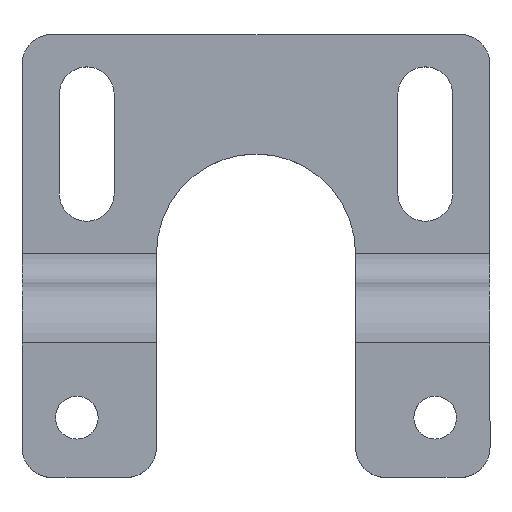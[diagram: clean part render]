
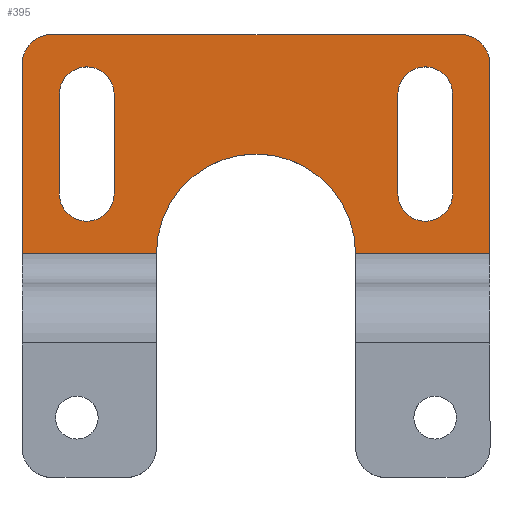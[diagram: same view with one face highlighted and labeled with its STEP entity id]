
A CAD part, top view. The second image highlights one B-rep face of the part: STEP entity #395.
In plain terms, the highlighted planar face has unit normal (0, 0, 1).
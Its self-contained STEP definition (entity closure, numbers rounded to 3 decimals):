
#209=CARTESIAN_POINT('',(-23.5,22.0,-9.5));
#210=VERTEX_POINT('',#209);
#217=CARTESIAN_POINT('',(-20.5,25.,-9.5));
#218=VERTEX_POINT('',#217);
#219=CARTESIAN_POINT('',(-20.5,22.0,-9.5));
#220=DIRECTION('',(0.0,0.0,-1.));
#221=DIRECTION('',(-0.707,0.707,0.0));
#222=AXIS2_PLACEMENT_3D('',#219,#220,#221);
#223=CIRCLE('',#222,3.);
#224=EDGE_CURVE('',#210,#218,#223,.T.);
#241=CARTESIAN_POINT('',(20.5,25.,-9.5));
#242=VERTEX_POINT('',#241);
#243=CARTESIAN_POINT('',(-20.5,25.,-9.5));
#244=DIRECTION('',(1.0,0.0,0.0));
#245=VECTOR('',#244,41.);
#246=LINE('',#243,#245);
#247=EDGE_CURVE('',#218,#242,#246,.T.);
#266=CARTESIAN_POINT('',(-23.5,-3.,-9.5));
#267=DIRECTION('',(0.0,0.0,1.0));
#268=DIRECTION('',(1.0,0.0,0.0));
#269=AXIS2_PLACEMENT_3D('',#266,#267,#268);
#270=PLANE('',#269);
#271=ORIENTED_EDGE('',*,*,#224,.F.);
#272=CARTESIAN_POINT('',(-23.5,3.,-9.5));
#273=VERTEX_POINT('',#272);
#274=CARTESIAN_POINT('',(-23.5,3.,-9.5));
#275=DIRECTION('',(0.0,1.0,0.0));
#276=VECTOR('',#275,19.0);
#277=LINE('',#274,#276);
#278=EDGE_CURVE('',#273,#210,#277,.T.);
#279=ORIENTED_EDGE('',*,*,#278,.F.);
#280=CARTESIAN_POINT('',(-10.,3.,-9.5));
#281=VERTEX_POINT('',#280);
#282=CARTESIAN_POINT('',(-10.,3.,-9.5));
#283=DIRECTION('',(-1.0,0.0,0.0));
#284=VECTOR('',#283,13.5);
#285=LINE('',#282,#284);
#286=EDGE_CURVE('',#281,#273,#285,.T.);
#287=ORIENTED_EDGE('',*,*,#286,.F.);
#288=CARTESIAN_POINT('',(10.0,3.,-9.5));
#289=VERTEX_POINT('',#288);
#290=CARTESIAN_POINT('',(0.,3.,-9.5));
#291=DIRECTION('',(0.0,0.0,-1.0));
#292=DIRECTION('',(1.0,0.0,0.0));
#293=AXIS2_PLACEMENT_3D('',#290,#291,#292);
#294=CIRCLE('',#293,10.);
#295=EDGE_CURVE('',#281,#289,#294,.T.);
#296=ORIENTED_EDGE('',*,*,#295,.T.);
#297=CARTESIAN_POINT('',(23.5,3.,-9.5));
#298=VERTEX_POINT('',#297);
#299=CARTESIAN_POINT('',(23.5,3.,-9.5));
#300=DIRECTION('',(-1.0,0.0,0.0));
#301=VECTOR('',#300,13.5);
#302=LINE('',#299,#301);
#303=EDGE_CURVE('',#298,#289,#302,.T.);
#304=ORIENTED_EDGE('',*,*,#303,.F.);
#305=CARTESIAN_POINT('',(23.5,22.0,-9.5));
#306=VERTEX_POINT('',#305);
#307=CARTESIAN_POINT('',(23.5,3.,-9.5));
#308=DIRECTION('',(0.0,1.0,0.0));
#309=VECTOR('',#308,19.0);
#310=LINE('',#307,#309);
#311=EDGE_CURVE('',#298,#306,#310,.T.);
#312=ORIENTED_EDGE('',*,*,#311,.T.);
#313=CARTESIAN_POINT('',(20.5,22.0,-9.5));
#314=DIRECTION('',(0.0,0.0,-1.));
#315=DIRECTION('',(0.707,0.707,0.0));
#316=AXIS2_PLACEMENT_3D('',#313,#314,#315);
#317=CIRCLE('',#316,3.);
#318=EDGE_CURVE('',#242,#306,#317,.T.);
#319=ORIENTED_EDGE('',*,*,#318,.F.);
#320=ORIENTED_EDGE('',*,*,#247,.F.);
#321=EDGE_LOOP('',(#271,#279,#287,#296,#304,#312,#319,#320));
#322=FACE_OUTER_BOUND('',#321,.T.);
#323=CARTESIAN_POINT('',(-19.75,19.,-9.5));
#324=VERTEX_POINT('',#323);
#325=CARTESIAN_POINT('',(-14.25,19.,-9.5));
#326=VERTEX_POINT('',#325);
#327=CARTESIAN_POINT('',(-17.,19.,-9.5));
#328=DIRECTION('',(0.0,0.0,-1.0));
#329=DIRECTION('',(1.0,0.0,0.0));
#330=AXIS2_PLACEMENT_3D('',#327,#328,#329);
#331=CIRCLE('',#330,2.75);
#332=EDGE_CURVE('',#324,#326,#331,.T.);
#333=ORIENTED_EDGE('',*,*,#332,.T.);
#334=CARTESIAN_POINT('',(-14.25,9.,-9.5));
#335=VERTEX_POINT('',#334);
#336=CARTESIAN_POINT('',(-14.25,19.,-9.5));
#337=DIRECTION('',(0.0,-1.0,0.0));
#338=VECTOR('',#337,10.);
#339=LINE('',#336,#338);
#340=EDGE_CURVE('',#326,#335,#339,.T.);
#341=ORIENTED_EDGE('',*,*,#340,.T.);
#342=CARTESIAN_POINT('',(-19.75,9.,-9.5));
#343=VERTEX_POINT('',#342);
#344=CARTESIAN_POINT('',(-17.,9.,-9.5));
#345=DIRECTION('',(0.0,0.0,-1.0));
#346=DIRECTION('',(-1.0,0.0,0.0));
#347=AXIS2_PLACEMENT_3D('',#344,#345,#346);
#348=CIRCLE('',#347,2.75);
#349=EDGE_CURVE('',#335,#343,#348,.T.);
#350=ORIENTED_EDGE('',*,*,#349,.T.);
#351=CARTESIAN_POINT('',(-19.75,9.,-9.5));
#352=DIRECTION('',(0.0,1.0,0.0));
#353=VECTOR('',#352,10.);
#354=LINE('',#351,#353);
#355=EDGE_CURVE('',#343,#324,#354,.T.);
#356=ORIENTED_EDGE('',*,*,#355,.T.);
#357=EDGE_LOOP('',(#333,#341,#350,#356));
#358=FACE_BOUND('',#357,.T.);
#359=CARTESIAN_POINT('',(14.25,9.,-9.5));
#360=VERTEX_POINT('',#359);
#361=CARTESIAN_POINT('',(14.25,19.0,-9.5));
#362=VERTEX_POINT('',#361);
#363=CARTESIAN_POINT('',(14.25,9.,-9.5));
#364=DIRECTION('',(0.0,1.0,0.0));
#365=VECTOR('',#364,10.);
#366=LINE('',#363,#365);
#367=EDGE_CURVE('',#360,#362,#366,.T.);
#368=ORIENTED_EDGE('',*,*,#367,.T.);
#369=CARTESIAN_POINT('',(19.75,19.0,-9.5));
#370=VERTEX_POINT('',#369);
#371=CARTESIAN_POINT('',(17.,19.,-9.5));
#372=DIRECTION('',(0.0,0.0,-1.0));
#373=DIRECTION('',(-1.0,0.0,0.0));
#374=AXIS2_PLACEMENT_3D('',#371,#372,#373);
#375=CIRCLE('',#374,2.75);
#376=EDGE_CURVE('',#362,#370,#375,.T.);
#377=ORIENTED_EDGE('',*,*,#376,.T.);
#378=CARTESIAN_POINT('',(19.75,9.,-9.5));
#379=VERTEX_POINT('',#378);
#380=CARTESIAN_POINT('',(19.75,19.0,-9.5));
#381=DIRECTION('',(0.0,-1.0,0.0));
#382=VECTOR('',#381,10.);
#383=LINE('',#380,#382);
#384=EDGE_CURVE('',#370,#379,#383,.T.);
#385=ORIENTED_EDGE('',*,*,#384,.T.);
#386=CARTESIAN_POINT('',(17.,9.,-9.5));
#387=DIRECTION('',(0.0,0.0,-1.0));
#388=DIRECTION('',(1.0,0.0,0.0));
#389=AXIS2_PLACEMENT_3D('',#386,#387,#388);
#390=CIRCLE('',#389,2.75);
#391=EDGE_CURVE('',#379,#360,#390,.T.);
#392=ORIENTED_EDGE('',*,*,#391,.T.);
#393=EDGE_LOOP('',(#368,#377,#385,#392));
#394=FACE_BOUND('',#393,.T.);
#395=ADVANCED_FACE('',(#322,#358,#394),#270,.T.);
